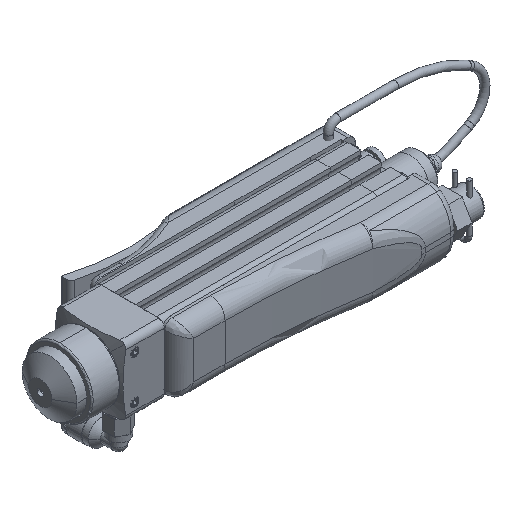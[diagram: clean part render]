
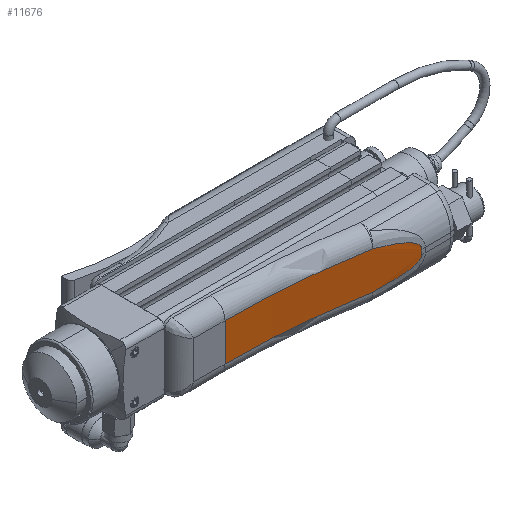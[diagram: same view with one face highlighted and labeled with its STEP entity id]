
A CAD part, isometric view. The second image highlights one B-rep face of the part: STEP entity #11676.
In plain terms, the highlighted cylindrical face has radius 275 mm (diameter 550 mm), a partial arc.
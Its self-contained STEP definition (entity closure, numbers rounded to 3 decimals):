
#2673 = ORIENTED_EDGE ( 'NONE', *, *, #11916, .F. ) ;
#3086 = CARTESIAN_POINT ( 'NONE',  ( 15.815, -29., 6.5 ) ) ;
#3378 = CARTESIAN_POINT ( 'NONE',  ( 75.709, -35.601, 2.799 ) ) ;
#3938 = CARTESIAN_POINT ( 'NONE',  ( 76.922, -35.875, -0.835 ) ) ;
#4128 = CARTESIAN_POINT ( 'NONE',  ( 15.815, -304., -6.5 ) ) ;
#5019 = VECTOR ( 'NONE', #10013, 1000. ) ;
#6175 = CARTESIAN_POINT ( 'NONE',  ( 75.185, -35.485, 3.167 ) ) ;
#6290 = DIRECTION ( 'NONE',  ( 0., 0., 1. ) ) ;
#6970 = CARTESIAN_POINT ( 'NONE',  ( 74.046, -35.235, -3.803 ) ) ;
#7178 = CARTESIAN_POINT ( 'NONE',  ( 65.521, -33.526, 6.116 ) ) ;
#9239 = B_SPLINE_CURVE_WITH_KNOTS ( 'NONE', 3,
 ( #21829, #44838, #7178, #29917, #29672, #37012, #45333, #45089, #10708, #44586, #6175, #3378, #14000, #33965, #18783, #25617, #26117, #45583 ),
 .UNSPECIFIED., .F., .F.,
 ( 4, 2, 2, 2, 2, 2, 2, 2, 4 ),
 ( 0., 0.25, 0.5, 0.625, 0.75, 0.813, 0.875, 0.938, 1. ),
 .UNSPECIFIED. ) ;
#9416 = VERTEX_POINT ( 'NONE', #48095 ) ;
#9482 = B_SPLINE_CURVE_WITH_KNOTS ( 'NONE', 3,
 ( #3938, #33761, #49175, #14541, #29958, #10750, #41849, #26157, #41597, #6970, #49419, #14788, #11009, #26418, #31235, #36028, #35290, #23634 ),
 .UNSPECIFIED., .F., .F.,
 ( 4, 2, 2, 2, 2, 2, 2, 2, 4 ),
 ( 0., 0.062, 0.125, 0.187, 0.25, 0.375, 0.5, 0.75, 1. ),
 .UNSPECIFIED. ) ;
#10013 = DIRECTION ( 'NONE',  ( 0., 0., -1. ) ) ;
#10708 = CARTESIAN_POINT ( 'NONE',  ( 74.045, -35.235, 3.803 ) ) ;
#10750 = CARTESIAN_POINT ( 'NONE',  ( 75.955, -35.657, -2.6 ) ) ;
#11009 = CARTESIAN_POINT ( 'NONE',  ( 71.536, -34.704, -4.75 ) ) ;
#11465 = AXIS2_PLACEMENT_3D ( 'NONE', #42746, #6290, #28798 ) ;
#11510 = VERTEX_POINT ( 'NONE', #35903 ) ;
#11676 = ADVANCED_FACE ( 'NONE', ( #31111 ), #27319, .F. ) ;
#11705 = ORIENTED_EDGE ( 'NONE', *, *, #11814, .F. ) ;
#11814 = EDGE_CURVE ( 'NONE', #25232, #9416, #21898, .T. ) ;
#11916 = EDGE_CURVE ( 'NONE', #38444, #22014, #29722, .T. ) ;
#12661 = ORIENTED_EDGE ( 'NONE', *, *, #46662, .F. ) ;
#14000 = CARTESIAN_POINT ( 'NONE',  ( 75.955, -35.656, 2.6 ) ) ;
#14541 = CARTESIAN_POINT ( 'NONE',  ( 76.577, -35.797, -1.921 ) ) ;
#14788 = CARTESIAN_POINT ( 'NONE',  ( 72.18, -34.838, -4.543 ) ) ;
#16027 = CARTESIAN_POINT ( 'NONE',  ( 76.922, -35.875, -0.835 ) ) ;
#16314 = CARTESIAN_POINT ( 'NONE',  ( 62.771, -33.038, -6.5 ) ) ;
#17897 = EDGE_CURVE ( 'NONE', #11510, #25232, #28795, .T. ) ;
#18273 = ORIENTED_EDGE ( 'NONE', *, *, #26714, .F. ) ;
#18783 = CARTESIAN_POINT ( 'NONE',  ( 76.577, -35.797, 1.921 ) ) ;
#18818 = VERTEX_POINT ( 'NONE', #16314 ) ;
#19784 = DIRECTION ( 'NONE',  ( 0.171, 0.985, 0. ) ) ;
#21194 = DIRECTION ( 'NONE',  ( 0., 0., 1. ) ) ;
#21829 = CARTESIAN_POINT ( 'NONE',  ( 62.768, -33.038, 6.5 ) ) ;
#21898 = CIRCLE ( 'NONE', #39694, 275. ) ;
#22014 = VERTEX_POINT ( 'NONE', #16027 ) ;
#22542 = CARTESIAN_POINT ( 'NONE',  ( 76.922, -35.875, 0.835 ) ) ;
#23634 = CARTESIAN_POINT ( 'NONE',  ( 62.771, -33.038, -6.5 ) ) ;
#25168 = DIRECTION ( 'NONE',  ( 0., 0., -1. ) ) ;
#25232 = VERTEX_POINT ( 'NONE', #3086 ) ;
#25617 = CARTESIAN_POINT ( 'NONE',  ( 76.845, -35.857, 1.399 ) ) ;
#26117 = CARTESIAN_POINT ( 'NONE',  ( 76.922, -35.875, 1.117 ) ) ;
#26157 = CARTESIAN_POINT ( 'NONE',  ( 75.186, -35.485, -3.167 ) ) ;
#26418 = CARTESIAN_POINT ( 'NONE',  ( 69.577, -34.303, -5.314 ) ) ;
#26714 = EDGE_CURVE ( 'NONE', #9416, #38444, #9239, .T. ) ;
#27319 = CYLINDRICAL_SURFACE ( 'NONE', #11465, 275. ) ;
#27564 = ORIENTED_EDGE ( 'NONE', *, *, #44286, .F. ) ;
#28251 = DIRECTION ( 'NONE',  ( 0.171, 0.985, 0. ) ) ;
#28795 = LINE ( 'NONE', #29274, #32227 ) ;
#28798 = DIRECTION ( 'NONE',  ( 1., 0., 0. ) ) ;
#29274 = CARTESIAN_POINT ( 'NONE',  ( 15.815, -29., -11.5 ) ) ;
#29672 = CARTESIAN_POINT ( 'NONE',  ( 69.576, -34.303, 5.314 ) ) ;
#29722 = LINE ( 'NONE', #45636, #5019 ) ;
#29917 = CARTESIAN_POINT ( 'NONE',  ( 68.234, -34.038, 5.611 ) ) ;
#29958 = CARTESIAN_POINT ( 'NONE',  ( 76.389, -35.754, -2.161 ) ) ;
#30769 = EDGE_LOOP ( 'NONE', ( #18273, #11705, #45309, #27564, #12661, #2673 ) ) ;
#31111 = FACE_OUTER_BOUND ( 'NONE', #30769, .T. ) ;
#31235 = CARTESIAN_POINT ( 'NONE',  ( 68.236, -34.039, -5.611 ) ) ;
#32227 = VECTOR ( 'NONE', #21194, 1000. ) ;
#33761 = CARTESIAN_POINT ( 'NONE',  ( 76.921, -35.875, -1.118 ) ) ;
#33965 = CARTESIAN_POINT ( 'NONE',  ( 76.389, -35.754, 2.161 ) ) ;
#35290 = CARTESIAN_POINT ( 'NONE',  ( 64.152, -33.278, -6.323 ) ) ;
#35903 = CARTESIAN_POINT ( 'NONE',  ( 15.815, -29., -6.5 ) ) ;
#35916 = AXIS2_PLACEMENT_3D ( 'NONE', #4128, #46590, #19784 ) ;
#36028 = CARTESIAN_POINT ( 'NONE',  ( 65.523, -33.526, -6.116 ) ) ;
#37012 = CARTESIAN_POINT ( 'NONE',  ( 71.535, -34.703, 4.75 ) ) ;
#38444 = VERTEX_POINT ( 'NONE', #22542 ) ;
#39694 = AXIS2_PLACEMENT_3D ( 'NONE', #44161, #25168, #28251 ) ;
#41597 = CARTESIAN_POINT ( 'NONE',  ( 74.908, -35.424, -3.335 ) ) ;
#41849 = CARTESIAN_POINT ( 'NONE',  ( 75.709, -35.601, -2.8 ) ) ;
#42746 = CARTESIAN_POINT ( 'NONE',  ( 15.815, -304., -11.5 ) ) ;
#44161 = CARTESIAN_POINT ( 'NONE',  ( 15.815, -304., 6.5 ) ) ;
#44286 = EDGE_CURVE ( 'NONE', #18818, #11510, #46393, .T. ) ;
#44586 = CARTESIAN_POINT ( 'NONE',  ( 74.907, -35.424, 3.335 ) ) ;
#44838 = CARTESIAN_POINT ( 'NONE',  ( 64.149, -33.277, 6.323 ) ) ;
#45089 = CARTESIAN_POINT ( 'NONE',  ( 73.434, -35.103, 4.069 ) ) ;
#45309 = ORIENTED_EDGE ( 'NONE', *, *, #17897, .F. ) ;
#45333 = CARTESIAN_POINT ( 'NONE',  ( 72.179, -34.837, 4.543 ) ) ;
#45583 = CARTESIAN_POINT ( 'NONE',  ( 76.922, -35.875, 0.835 ) ) ;
#45636 = CARTESIAN_POINT ( 'NONE',  ( 76.922, -35.875, -11.5 ) ) ;
#46393 = CIRCLE ( 'NONE', #35916, 275. ) ;
#46590 = DIRECTION ( 'NONE',  ( 0., 0., 1. ) ) ;
#46662 = EDGE_CURVE ( 'NONE', #22014, #18818, #9482, .T. ) ;
#48095 = CARTESIAN_POINT ( 'NONE',  ( 62.768, -33.038, 6.5 ) ) ;
#49175 = CARTESIAN_POINT ( 'NONE',  ( 76.845, -35.857, -1.4 ) ) ;
#49419 = CARTESIAN_POINT ( 'NONE',  ( 73.435, -35.103, -4.069 ) ) ;
